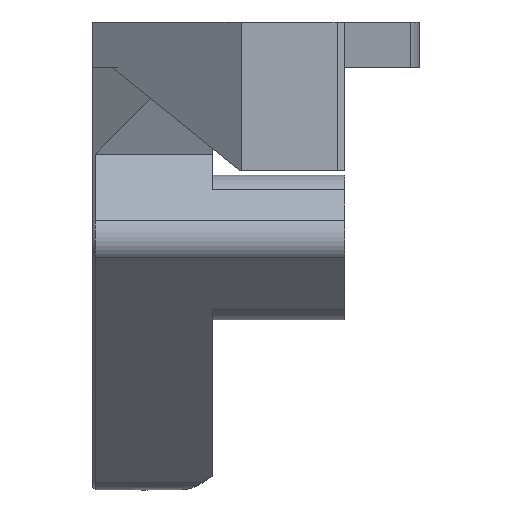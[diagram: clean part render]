
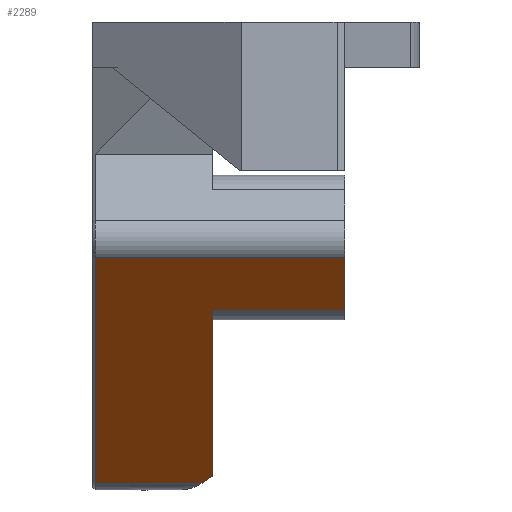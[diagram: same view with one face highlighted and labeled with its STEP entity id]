
A CAD part, left-side view. The second image highlights one B-rep face of the part: STEP entity #2289.
In plain terms, the highlighted planar face has unit normal (-0.707, 0, -0.707).
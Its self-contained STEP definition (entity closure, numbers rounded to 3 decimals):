
#24=ELLIPSE('',#2408,16.263,11.5);
#358=FACE_OUTER_BOUND('',#509,.T.);
#509=EDGE_LOOP('',(#1913,#1914,#1915,#1916,#1917,#1918,#1919));
#662=LINE('',#6279,#841);
#673=LINE('',#6325,#852);
#674=LINE('',#6329,#853);
#675=LINE('',#6331,#854);
#676=LINE('',#6333,#855);
#677=LINE('',#6334,#856);
#841=VECTOR('',#2701,10.);
#852=VECTOR('',#2738,2.133);
#853=VECTOR('',#2743,10.);
#854=VECTOR('',#2744,10.);
#855=VECTOR('',#2745,10.);
#856=VECTOR('',#2746,10.);
#1087=VERTEX_POINT('',#6276);
#1088=VERTEX_POINT('',#6278);
#1097=VERTEX_POINT('',#6312);
#1098=VERTEX_POINT('',#6324);
#1099=VERTEX_POINT('',#6328);
#1100=VERTEX_POINT('',#6330);
#1101=VERTEX_POINT('',#6332);
#1370=EDGE_CURVE('',#1088,#1087,#662,.T.);
#1386=EDGE_CURVE('',#1097,#1088,#24,.T.);
#1388=EDGE_CURVE('',#1097,#1098,#673,.T.);
#1390=EDGE_CURVE('',#1099,#1087,#674,.T.);
#1391=EDGE_CURVE('',#1100,#1099,#675,.T.);
#1392=EDGE_CURVE('',#1101,#1100,#676,.T.);
#1393=EDGE_CURVE('',#1098,#1101,#677,.T.);
#1913=ORIENTED_EDGE('',*,*,#1386,.T.);
#1914=ORIENTED_EDGE('',*,*,#1370,.T.);
#1915=ORIENTED_EDGE('',*,*,#1390,.F.);
#1916=ORIENTED_EDGE('',*,*,#1391,.F.);
#1917=ORIENTED_EDGE('',*,*,#1392,.F.);
#1918=ORIENTED_EDGE('',*,*,#1393,.F.);
#1919=ORIENTED_EDGE('',*,*,#1388,.F.);
#2187=PLANE('',#2414);
#2289=ADVANCED_FACE('',(#358),#2187,.T.);
#2408=AXIS2_PLACEMENT_3D('',#6313,#2728,#2729);
#2414=AXIS2_PLACEMENT_3D('',#6327,#2741,#2742);
#2701=DIRECTION('',(-0.707,0.,0.707));
#2728=DIRECTION('center_axis',(0.707,0.,0.707));
#2729=DIRECTION('ref_axis',(-0.707,0.,0.707));
#2738=DIRECTION('',(0.,1.,0.));
#2741=DIRECTION('center_axis',(-0.707,0.,
-0.707));
#2742=DIRECTION('ref_axis',(0.707,0.,-0.707));
#2743=DIRECTION('',(0.,1.,0.));
#2744=DIRECTION('',(0.707,0.,-0.707));
#2745=DIRECTION('',(0.,-1.,0.));
#2746=DIRECTION('',(-0.707,0.,0.707));
#6276=CARTESIAN_POINT('',(8.775,42.458,12.237));
#6278=CARTESIAN_POINT('',(22.432,42.458,-1.421));
#6279=CARTESIAN_POINT('',(6.651,42.458,14.36));
#6312=CARTESIAN_POINT('',(22.898,43.185,-1.887));
#6313=CARTESIAN_POINT('Origin',(32.34,36.62,-11.328));
#6324=CARTESIAN_POINT('',(22.898,52.008,-1.887));
#6325=CARTESIAN_POINT('',(22.898,50.261,-1.887));
#6327=CARTESIAN_POINT('Origin',(4.55,51.908,16.462));
#6328=CARTESIAN_POINT('',(8.775,31.62,12.237));
#6329=CARTESIAN_POINT('',(8.775,46.636,12.237));
#6330=CARTESIAN_POINT('',(4.55,31.62,16.462));
#6331=CARTESIAN_POINT('',(10.867,31.62,10.145));
#6332=CARTESIAN_POINT('',(4.55,52.008,16.462));
#6333=CARTESIAN_POINT('',(4.55,40.858,16.462));
#6334=CARTESIAN_POINT('',(10.867,52.008,10.145));
